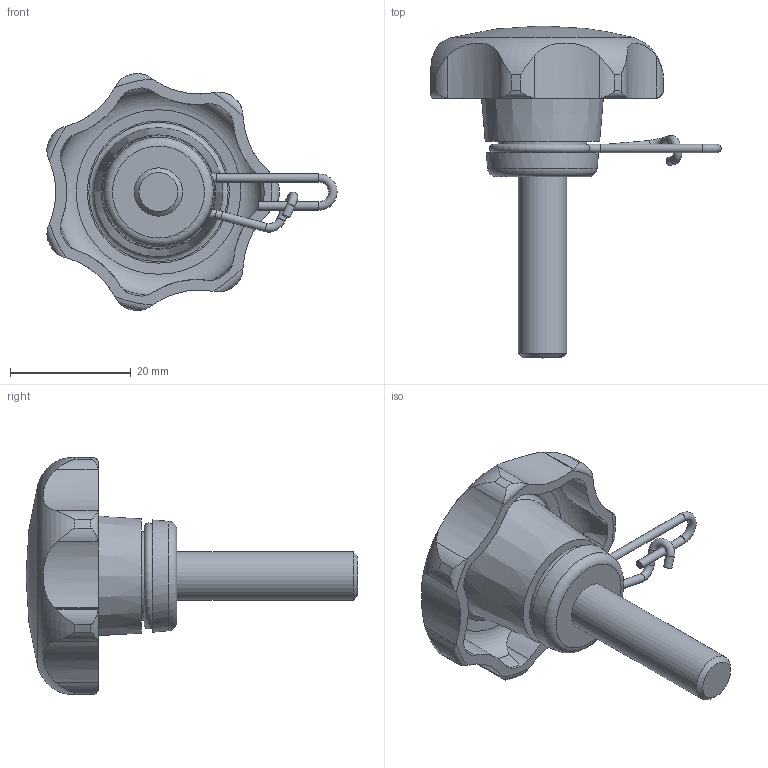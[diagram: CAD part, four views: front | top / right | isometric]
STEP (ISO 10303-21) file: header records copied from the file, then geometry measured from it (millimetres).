
FILE_DESCRIPTION( ( 'STEP AP203' ), '1' );
FILE_NAME( 'C:/Temp/Ganter_Step_05_03_2020/data/2_2/gn_6336_13/gn_6336_13_2/Star knob GN 6336.13-40-M8-30-A.stp', '2020-03-05T12:11:11', ( 'License CC BY-ND 4.0' ), ( 'CADENAS' ), ' ', 'PARTsolutions', ' ' );
FILE_SCHEMA( ( 'CONFIG_CONTROL_DESIGN' ) );
Length unit declared in the file: millimetre
Products named in the file (1): _Star knob GN 6336.13-40-M8-30-A
Bounding box: 48.08 x 55 x 39.31 mm (x, y, z)
Volume: 12741.1 mm3; surface area: 6311.3 mm2
Topology: 1 solids, 1 shells, 114 faces, 310 edges, 202 vertices
Faces by surface type: cylinder 73, torus 18, cone 11, plane 11, sphere 1
Full cylindrical faces by diameter (mm): 1.4 x5, 8 x1, 14.7 x1
Entity records: 4226 total; most frequent: CARTESIAN_POINT 1527, ORIENTED_EDGE 564, DIRECTION 516, EDGE_CURVE 282, AXIS2_PLACEMENT_3D 222, VERTEX_POINT 199, EDGE_LOOP 140, FACE_OUTER_BOUND 131
